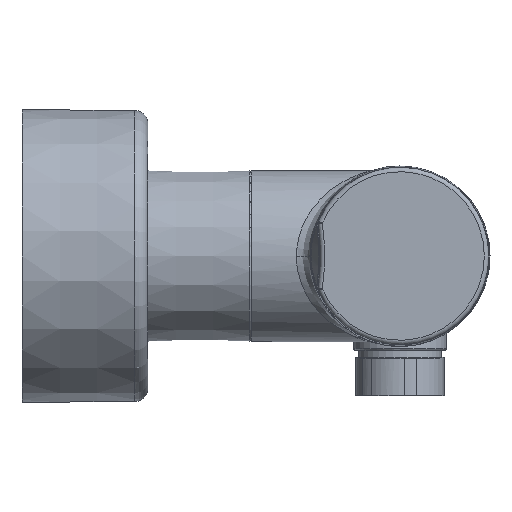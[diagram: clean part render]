
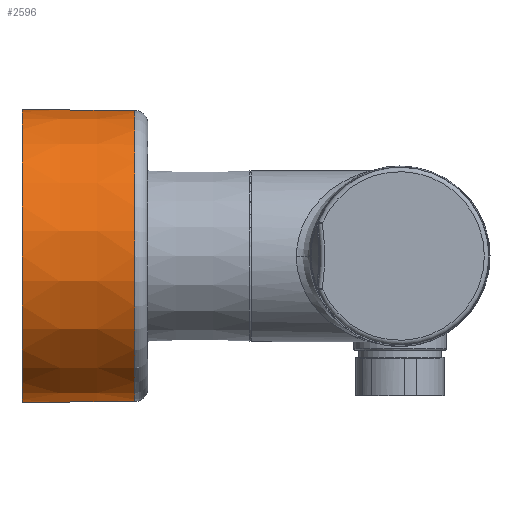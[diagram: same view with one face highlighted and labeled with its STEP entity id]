
A CAD part, left-side view. The second image highlights one B-rep face of the part: STEP entity #2596.
In plain terms, the highlighted conical face has half-angle 0.3 degrees and reference radius 32.434 mm.
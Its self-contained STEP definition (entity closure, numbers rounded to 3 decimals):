
#99=CONICAL_SURFACE('',#2928,32.435,0.005);
#301=CIRCLE('',#2927,32.5);
#302=CIRCLE('',#2929,32.369);
#303=CIRCLE('',#2930,32.369);
#509=FACE_OUTER_BOUND('',#696,.T.);
#696=EDGE_LOOP('',(#2291,#2292,#2293,#2294,#2295));
#880=LINE('',#8977,#1051);
#1051=VECTOR('',#3652,32.435);
#1267=VERTEX_POINT('',#8973);
#1268=VERTEX_POINT('',#8976);
#1269=VERTEX_POINT('',#8978);
#1613=EDGE_CURVE('',#1267,#1267,#301,.T.);
#1614=EDGE_CURVE('',#1267,#1268,#880,.T.);
#1615=EDGE_CURVE('',#1268,#1269,#302,.T.);
#1616=EDGE_CURVE('',#1269,#1268,#303,.T.);
#2291=ORIENTED_EDGE('',*,*,#1613,.F.);
#2292=ORIENTED_EDGE('',*,*,#1614,.T.);
#2293=ORIENTED_EDGE('',*,*,#1615,.T.);
#2294=ORIENTED_EDGE('',*,*,#1616,.T.);
#2295=ORIENTED_EDGE('',*,*,#1614,.F.);
#2596=ADVANCED_FACE('',(#509),#99,.T.);
#2927=AXIS2_PLACEMENT_3D('',#8974,#3648,#3649);
#2928=AXIS2_PLACEMENT_3D('',#8975,#3650,#3651);
#2929=AXIS2_PLACEMENT_3D('',#8979,#3653,#3654);
#2930=AXIS2_PLACEMENT_3D('',#8980,#3655,#3656);
#3648=DIRECTION('center_axis',(0.,1.,0.));
#3649=DIRECTION('ref_axis',(0.,0.,1.));
#3650=DIRECTION('center_axis',(0.,1.,0.));
#3651=DIRECTION('ref_axis',(0.,0.,1.));
#3652=DIRECTION('',(0.,-1.,0.005));
#3653=DIRECTION('center_axis',(0.,1.,0.));
#3654=DIRECTION('ref_axis',(0.,0.,1.));
#3655=DIRECTION('center_axis',(0.,1.,0.));
#3656=DIRECTION('ref_axis',(0.,0.,1.));
#8973=CARTESIAN_POINT('',(-75.,110.262,-22.424));
#8974=CARTESIAN_POINT('Origin',(-75.,110.262,10.076));
#8975=CARTESIAN_POINT('Origin',(-75.,97.754,10.076));
#8976=CARTESIAN_POINT('',(-75.,85.247,-22.293));
#8977=CARTESIAN_POINT('',(-75.,97.754,-22.358));
#8978=CARTESIAN_POINT('',(-74.845,85.247,-22.292));
#8979=CARTESIAN_POINT('Origin',(-75.,85.247,10.076));
#8980=CARTESIAN_POINT('Origin',(-75.,85.247,10.076));
